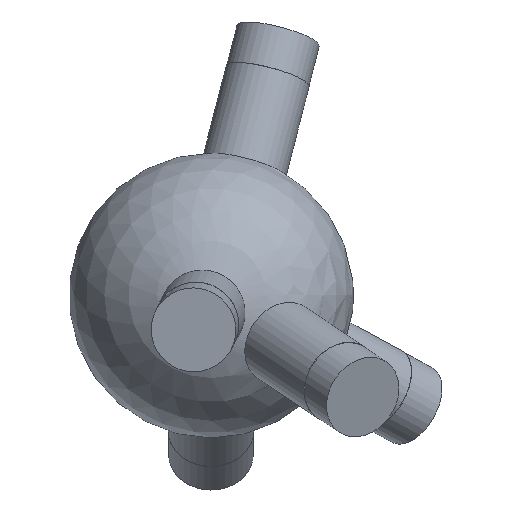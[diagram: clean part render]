
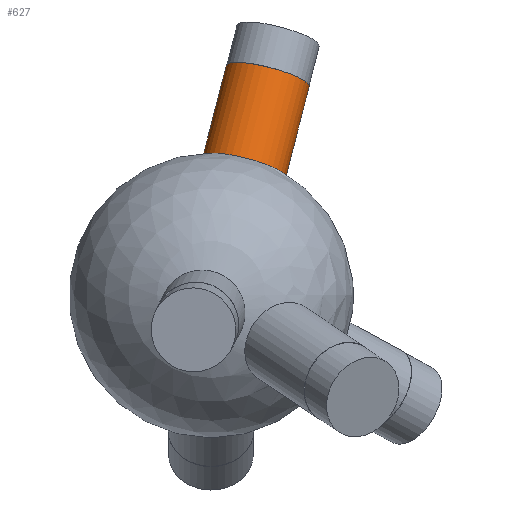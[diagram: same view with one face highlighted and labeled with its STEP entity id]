
A CAD part, top view. The second image highlights one B-rep face of the part: STEP entity #627.
In plain terms, the highlighted cylindrical face has radius 6 mm (diameter 12 mm), a full revolution.
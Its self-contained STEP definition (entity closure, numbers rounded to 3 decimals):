
#33 = SPHERICAL_SURFACE('',#34,20.);
#34 = AXIS2_PLACEMENT_3D('',#35,#36,#37);
#35 = CARTESIAN_POINT('',(0.,0.,0.));
#36 = DIRECTION('',(0.,0.,1.));
#37 = DIRECTION('',(1.,0.,-0.));
#181 = EDGE_CURVE('',#182,#182,#184,.T.);
#182 = VERTEX_POINT('',#183);
#183 = CARTESIAN_POINT('',(10.465,16.593,
    -3.895));
#184 = SURFACE_CURVE('',#185,(#190,#252),.PCURVE_S1.);
#185 = CIRCLE('',#186,6.);
#186 = AXIS2_PLACEMENT_3D('',#187,#188,#189);
#187 = CARTESIAN_POINT('',(4.654,18.088,
    -3.895));
#188 = DIRECTION('',(0.244,0.948,-0.204));
#189 = DIRECTION('',(-0.968,0.249,0.)
  );
#190 = PCURVE('',#33,#191);
#191 = DEFINITIONAL_REPRESENTATION('',(#192),#251);
#192 = B_SPLINE_CURVE_WITH_KNOTS('',8,(#193,#194,#195,#196,#197,#198,
    #199,#200,#201,#202,#203,#204,#205,#206,#207,#208,#209,#210,#211,
    #212,#213,#214,#215,#216,#217,#218,#219,#220,#221,#222,#223,#224,
    #225,#226,#227,#228,#229,#230,#231,#232,#233,#234,#235,#236,#237,
    #238,#239,#240,#241,#242,#243,#244,#245,#246,#247,#248,#249,#250),
  .UNSPECIFIED.,.F.,.F.,(9,7,7,7,7,7,7,7,9),(3.142,
    3.927,4.614,5.216,6.268,
    7.057,7.649,8.537,9.425),
  .UNSPECIFIED.);
#193 = CARTESIAN_POINT('',(1.008,-0.196));
#194 = CARTESIAN_POINT('',(1.006,-0.225));
#195 = CARTESIAN_POINT('',(1.008,-0.255));
#196 = CARTESIAN_POINT('',(1.012,-0.284));
#197 = CARTESIAN_POINT('',(1.02,-0.313));
#198 = CARTESIAN_POINT('',(1.031,-0.341));
#199 = CARTESIAN_POINT('',(1.046,-0.367));
#200 = CARTESIAN_POINT('',(1.064,-0.392));
#201 = CARTESIAN_POINT('',(1.104,-0.434));
#202 = CARTESIAN_POINT('',(1.124,-0.451));
#203 = CARTESIAN_POINT('',(1.147,-0.467));
#204 = CARTESIAN_POINT('',(1.172,-0.481));
#205 = CARTESIAN_POINT('',(1.199,-0.492));
#206 = CARTESIAN_POINT('',(1.227,-0.5));
#207 = CARTESIAN_POINT('',(1.256,-0.506));
#208 = CARTESIAN_POINT('',(1.311,-0.511));
#209 = CARTESIAN_POINT('',(1.337,-0.511));
#210 = CARTESIAN_POINT('',(1.363,-0.51));
#211 = CARTESIAN_POINT('',(1.389,-0.506));
#212 = CARTESIAN_POINT('',(1.414,-0.499));
#213 = CARTESIAN_POINT('',(1.438,-0.491));
#214 = CARTESIAN_POINT('',(1.46,-0.481));
#215 = CARTESIAN_POINT('',(1.519,-0.448));
#216 = CARTESIAN_POINT('',(1.553,-0.422));
#217 = CARTESIAN_POINT('',(1.581,-0.391));
#218 = CARTESIAN_POINT('',(1.603,-0.356));
#219 = CARTESIAN_POINT('',(1.618,-0.319));
#220 = CARTESIAN_POINT('',(1.628,-0.28));
#221 = CARTESIAN_POINT('',(1.632,-0.24));
#222 = CARTESIAN_POINT('',(1.629,-0.171));
#223 = CARTESIAN_POINT('',(1.624,-0.142));
#224 = CARTESIAN_POINT('',(1.616,-0.113));
#225 = CARTESIAN_POINT('',(1.605,-0.085));
#226 = CARTESIAN_POINT('',(1.592,-0.058));
#227 = CARTESIAN_POINT('',(1.575,-0.033));
#228 = CARTESIAN_POINT('',(1.556,-0.01));
#229 = CARTESIAN_POINT('',(1.519,0.026));
#230 = CARTESIAN_POINT('',(1.502,0.04));
#231 = CARTESIAN_POINT('',(1.484,0.053));
#232 = CARTESIAN_POINT('',(1.465,0.065));
#233 = CARTESIAN_POINT('',(1.445,0.074));
#234 = CARTESIAN_POINT('',(1.424,0.082));
#235 = CARTESIAN_POINT('',(1.402,0.088));
#236 = CARTESIAN_POINT('',(1.348,0.1));
#237 = CARTESIAN_POINT('',(1.314,0.102));
#238 = CARTESIAN_POINT('',(1.28,0.101));
#239 = CARTESIAN_POINT('',(1.247,0.095));
#240 = CARTESIAN_POINT('',(1.214,0.085));
#241 = CARTESIAN_POINT('',(1.183,0.071));
#242 = CARTESIAN_POINT('',(1.155,0.054));
#243 = CARTESIAN_POINT('',(1.102,0.013));
#244 = CARTESIAN_POINT('',(1.079,-0.011));
#245 = CARTESIAN_POINT('',(1.058,-0.038));
#246 = CARTESIAN_POINT('',(1.04,-0.067));
#247 = CARTESIAN_POINT('',(1.027,-0.098));
#248 = CARTESIAN_POINT('',(1.016,-0.13));
#249 = CARTESIAN_POINT('',(1.01,-0.163));
#250 = CARTESIAN_POINT('',(1.008,-0.196));
#251 = ( GEOMETRIC_REPRESENTATION_CONTEXT(2) 
PARAMETRIC_REPRESENTATION_CONTEXT() REPRESENTATION_CONTEXT('2D SPACE',''
  ) );
#252 = PCURVE('',#253,#258);
#253 = CYLINDRICAL_SURFACE('',#254,6.);
#254 = AXIS2_PLACEMENT_3D('',#255,#256,#257);
#255 = CARTESIAN_POINT('',(0.,0.,0.));
#256 = DIRECTION('',(0.244,0.948,-0.204));
#257 = DIRECTION('',(0.968,-0.249,0.)
  );
#258 = DEFINITIONAL_REPRESENTATION('',(#259),#263);
#259 = LINE('',#260,#261);
#260 = CARTESIAN_POINT('',(-3.142,19.079));
#261 = VECTOR('',#262,1.);
#262 = DIRECTION('',(1.,0.));
#263 = ( GEOMETRIC_REPRESENTATION_CONTEXT(2) 
PARAMETRIC_REPRESENTATION_CONTEXT() REPRESENTATION_CONTEXT('2D SPACE',''
  ) );
#627 = ADVANCED_FACE('',(#628),#253,.T.);
#628 = FACE_BOUND('',#629,.T.);
#629 = EDGE_LOOP('',(#630,#653,#680,#681));
#630 = ORIENTED_EDGE('',*,*,#631,.T.);
#631 = EDGE_CURVE('',#182,#632,#634,.T.);
#632 = VERTEX_POINT('',#633);
#633 = CARTESIAN_POINT('',(13.749,29.359,
    -6.643));
#634 = SEAM_CURVE('',#635,(#639,#646),.PCURVE_S1.);
#635 = LINE('',#636,#637);
#636 = CARTESIAN_POINT('',(5.811,-1.495,
    0.));
#637 = VECTOR('',#638,1.);
#638 = DIRECTION('',(0.244,0.948,-0.204));
#639 = PCURVE('',#253,#640);
#640 = DEFINITIONAL_REPRESENTATION('',(#641),#645);
#641 = LINE('',#642,#643);
#642 = CARTESIAN_POINT('',(6.283,-0.));
#643 = VECTOR('',#644,1.);
#644 = DIRECTION('',(0.,1.));
#645 = ( GEOMETRIC_REPRESENTATION_CONTEXT(2) 
PARAMETRIC_REPRESENTATION_CONTEXT() REPRESENTATION_CONTEXT('2D SPACE',''
  ) );
#646 = PCURVE('',#253,#647);
#647 = DEFINITIONAL_REPRESENTATION('',(#648),#652);
#648 = LINE('',#649,#650);
#649 = CARTESIAN_POINT('',(0.,-0.));
#650 = VECTOR('',#651,1.);
#651 = DIRECTION('',(0.,1.));
#652 = ( GEOMETRIC_REPRESENTATION_CONTEXT(2) 
PARAMETRIC_REPRESENTATION_CONTEXT() REPRESENTATION_CONTEXT('2D SPACE',''
  ) );
#653 = ORIENTED_EDGE('',*,*,#654,.F.);
#654 = EDGE_CURVE('',#632,#632,#655,.T.);
#655 = SURFACE_CURVE('',#656,(#661,#668),.PCURVE_S1.);
#656 = CIRCLE('',#657,6.);
#657 = AXIS2_PLACEMENT_3D('',#658,#659,#660);
#658 = CARTESIAN_POINT('',(7.938,30.854,
    -6.643));
#659 = DIRECTION('',(0.244,0.948,-0.204));
#660 = DIRECTION('',(0.968,-0.249,0.));
#661 = PCURVE('',#253,#662);
#662 = DEFINITIONAL_REPRESENTATION('',(#663),#667);
#663 = LINE('',#664,#665);
#664 = CARTESIAN_POINT('',(0.,32.544));
#665 = VECTOR('',#666,1.);
#666 = DIRECTION('',(1.,0.));
#667 = ( GEOMETRIC_REPRESENTATION_CONTEXT(2) 
PARAMETRIC_REPRESENTATION_CONTEXT() REPRESENTATION_CONTEXT('2D SPACE',''
  ) );
#668 = PCURVE('',#669,#674);
#669 = PLANE('',#670);
#670 = AXIS2_PLACEMENT_3D('',#671,#672,#673);
#671 = CARTESIAN_POINT('',(7.938,30.854,
    -6.643));
#672 = DIRECTION('',(0.244,0.948,-0.204));
#673 = DIRECTION('',(0.968,-0.249,0.)
  );
#674 = DEFINITIONAL_REPRESENTATION('',(#675),#679);
#675 = CIRCLE('',#676,6.);
#676 = AXIS2_PLACEMENT_2D('',#677,#678);
#677 = CARTESIAN_POINT('',(0.,0.));
#678 = DIRECTION('',(1.,0.));
#679 = ( GEOMETRIC_REPRESENTATION_CONTEXT(2) 
PARAMETRIC_REPRESENTATION_CONTEXT() REPRESENTATION_CONTEXT('2D SPACE',''
  ) );
#680 = ORIENTED_EDGE('',*,*,#631,.F.);
#681 = ORIENTED_EDGE('',*,*,#181,.T.);
